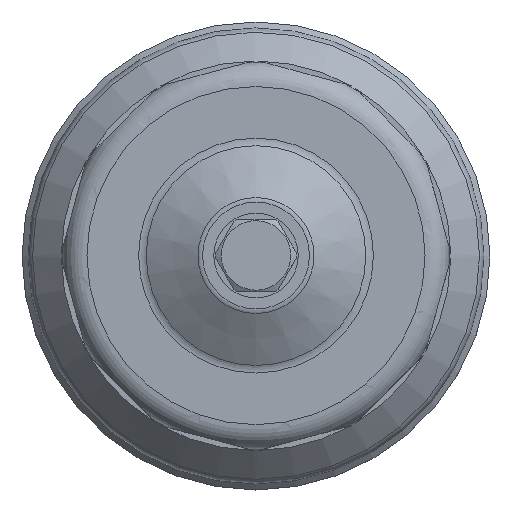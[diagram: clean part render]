
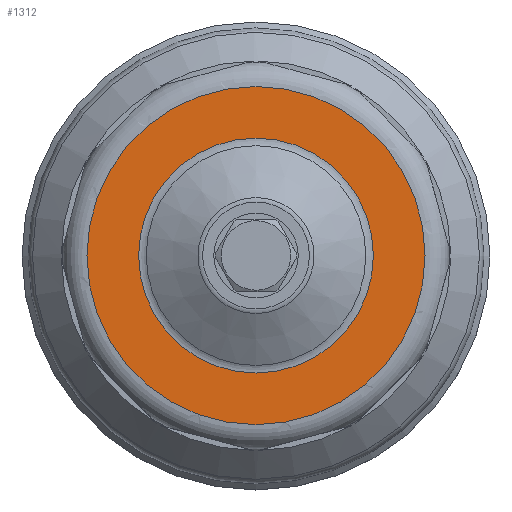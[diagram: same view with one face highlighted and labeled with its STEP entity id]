
A CAD part, top view. The second image highlights one B-rep face of the part: STEP entity #1312.
In plain terms, the highlighted planar face has unit normal (0, 0, 1).
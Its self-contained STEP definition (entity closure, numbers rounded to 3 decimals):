
#183=PLANE('',#1459);
#383=ORIENTED_EDGE('',*,*,#676,.F.);
#384=ORIENTED_EDGE('',*,*,#677,.T.);
#676=EDGE_CURVE('',#845,#845,#966,.T.);
#677=EDGE_CURVE('',#846,#846,#967,.T.);
#845=VERTEX_POINT('',#2149);
#846=VERTEX_POINT('',#2152);
#966=CIRCLE('',#1458,38.853);
#967=CIRCLE('',#1460,55.944);
#1086=EDGE_LOOP('',(#383));
#1087=EDGE_LOOP('',(#384));
#1212=FACE_BOUND('',#1086,.T.);
#1213=FACE_BOUND('',#1087,.T.);
#1312=ADVANCED_FACE('',(#1212,#1213),#183,.F.);
#1458=AXIS2_PLACEMENT_3D('',#2148,#1744,#1745);
#1459=AXIS2_PLACEMENT_3D('',#2150,#1746,#1747);
#1460=AXIS2_PLACEMENT_3D('',#2151,#1748,#1749);
#1744=DIRECTION('',(0.,0.,1.));
#1745=DIRECTION('',(-0.866,-0.5,0.));
#1746=DIRECTION('',(0.,0.,-1.));
#1747=DIRECTION('',(0.866,0.5,0.));
#1748=DIRECTION('',(0.,0.,1.));
#1749=DIRECTION('',(-0.866,-0.5,0.));
#2148=CARTESIAN_POINT('',(0.,-0.001,47.457));
#2149=CARTESIAN_POINT('',(-33.648,-19.427,47.457));
#2150=CARTESIAN_POINT('',(-33.648,-19.427,47.457));
#2151=CARTESIAN_POINT('',(0.,-0.001,47.457));
#2152=CARTESIAN_POINT('',(-48.449,-27.973,47.457));
